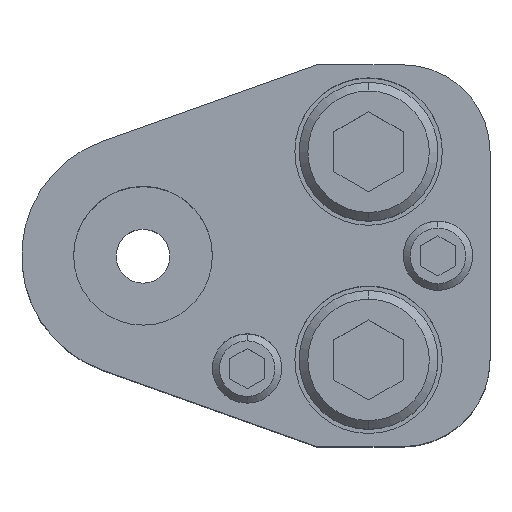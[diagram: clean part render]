
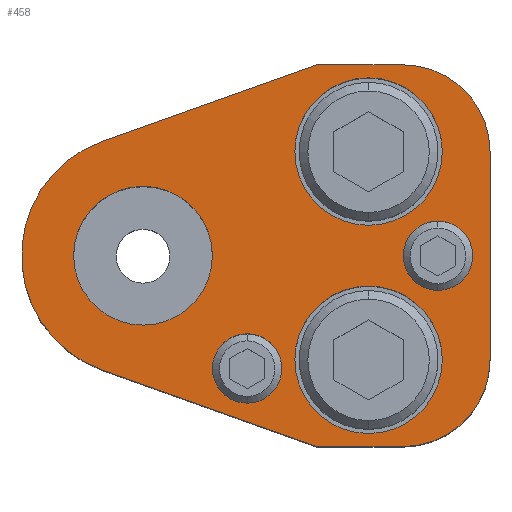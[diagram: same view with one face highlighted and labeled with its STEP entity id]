
A CAD part, top view. The second image highlights one B-rep face of the part: STEP entity #458.
In plain terms, the highlighted planar face has unit normal (0, 0, 1).
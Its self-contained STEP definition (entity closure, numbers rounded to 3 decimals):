
#217=FACE_BOUND('',#825,.T.);
#218=FACE_BOUND('',#826,.T.);
#219=FACE_BOUND('',#827,.T.);
#220=FACE_BOUND('',#828,.T.);
#221=FACE_BOUND('',#829,.T.);
#222=FACE_BOUND('',#830,.T.);
#273=CIRCLE('',#2646,14.);
#275=CIRCLE('',#2651,10.);
#277=CIRCLE('',#2655,10.);
#295=CIRCLE('',#2683,8.5);
#297=CIRCLE('',#2686,8.5);
#299=CIRCLE('',#2690,8.5);
#301=CIRCLE('',#2693,8.5);
#303=CIRCLE('',#2697,4.);
#304=CIRCLE('',#2698,4.);
#305=CIRCLE('',#2699,4.);
#306=CIRCLE('',#2700,4.);
#307=CIRCLE('',#2701,8.);
#308=CIRCLE('',#2702,8.);
#458=ADVANCED_FACE('',(#217,#218,#219,#220,#221,#222),#588,.T.);
#588=PLANE('',#2703);
#825=EDGE_LOOP('',(#1181,#1182,#1183,#1184,#1185,#1186,#1187,#1188));
#826=EDGE_LOOP('',(#1189,#1190));
#827=EDGE_LOOP('',(#1191,#1192));
#828=EDGE_LOOP('',(#1193,#1194));
#829=EDGE_LOOP('',(#1195,#1196));
#830=EDGE_LOOP('',(#1197,#1198));
#1181=ORIENTED_EDGE('',*,*,#1934,.T.);
#1182=ORIENTED_EDGE('',*,*,#1938,.T.);
#1183=ORIENTED_EDGE('',*,*,#1941,.T.);
#1184=ORIENTED_EDGE('',*,*,#1944,.T.);
#1185=ORIENTED_EDGE('',*,*,#1947,.T.);
#1186=ORIENTED_EDGE('',*,*,#1950,.T.);
#1187=ORIENTED_EDGE('',*,*,#1953,.T.);
#1188=ORIENTED_EDGE('',*,*,#1956,.T.);
#1189=ORIENTED_EDGE('',*,*,#1991,.F.);
#1190=ORIENTED_EDGE('',*,*,#1992,.F.);
#1191=ORIENTED_EDGE('',*,*,#1993,.F.);
#1192=ORIENTED_EDGE('',*,*,#1994,.F.);
#1193=ORIENTED_EDGE('',*,*,#1989,.F.);
#1194=ORIENTED_EDGE('',*,*,#1985,.F.);
#1195=ORIENTED_EDGE('',*,*,#1983,.F.);
#1196=ORIENTED_EDGE('',*,*,#1979,.F.);
#1197=ORIENTED_EDGE('',*,*,#1995,.T.);
#1198=ORIENTED_EDGE('',*,*,#1996,.T.);
#1688=VERTEX_POINT('',#3846);
#1689=VERTEX_POINT('',#3848);
#1692=VERTEX_POINT('',#3855);
#1694=VERTEX_POINT('',#3861);
#1696=VERTEX_POINT('',#3867);
#1698=VERTEX_POINT('',#3873);
#1700=VERTEX_POINT('',#3879);
#1702=VERTEX_POINT('',#3885);
#1719=VERTEX_POINT('',#3938);
#1720=VERTEX_POINT('',#3939);
#1723=VERTEX_POINT('',#3951);
#1724=VERTEX_POINT('',#3952);
#1727=VERTEX_POINT('',#3964);
#1728=VERTEX_POINT('',#3965);
#1729=VERTEX_POINT('',#3968);
#1730=VERTEX_POINT('',#3969);
#1731=VERTEX_POINT('',#3972);
#1732=VERTEX_POINT('',#3973);
#1934=EDGE_CURVE('',#1689,#1688,#273,.T.);
#1938=EDGE_CURVE('',#1688,#1692,#2266,.T.);
#1941=EDGE_CURVE('',#1692,#1694,#2269,.T.);
#1944=EDGE_CURVE('',#1694,#1696,#275,.T.);
#1947=EDGE_CURVE('',#1696,#1698,#2273,.T.);
#1950=EDGE_CURVE('',#1698,#1700,#277,.T.);
#1953=EDGE_CURVE('',#1700,#1702,#2277,.T.);
#1956=EDGE_CURVE('',#1702,#1689,#2280,.T.);
#1979=EDGE_CURVE('',#1719,#1720,#295,.T.);
#1983=EDGE_CURVE('',#1720,#1719,#297,.T.);
#1985=EDGE_CURVE('',#1723,#1724,#299,.T.);
#1989=EDGE_CURVE('',#1724,#1723,#301,.T.);
#1991=EDGE_CURVE('',#1727,#1728,#303,.T.);
#1992=EDGE_CURVE('',#1728,#1727,#304,.T.);
#1993=EDGE_CURVE('',#1729,#1730,#305,.T.);
#1994=EDGE_CURVE('',#1730,#1729,#306,.T.);
#1995=EDGE_CURVE('',#1731,#1732,#307,.T.);
#1996=EDGE_CURVE('',#1732,#1731,#308,.T.);
#2266=LINE('',#3856,#2458);
#2269=LINE('',#3862,#2461);
#2273=LINE('',#3874,#2465);
#2277=LINE('',#3886,#2469);
#2280=LINE('',#3890,#2472);
#2458=VECTOR('',#3056,1.);
#2461=VECTOR('',#3061,1.);
#2465=VECTOR('',#3073,1.);
#2469=VECTOR('',#3085,1.);
#2472=VECTOR('',#3090,1.);
#2646=AXIS2_PLACEMENT_3D('',#3847,#3048,#3049);
#2651=AXIS2_PLACEMENT_3D('',#3868,#3066,#3067);
#2655=AXIS2_PLACEMENT_3D('',#3880,#3078,#3079);
#2683=AXIS2_PLACEMENT_3D('',#3937,#3145,#3146);
#2686=AXIS2_PLACEMENT_3D('',#3946,#3153,#3154);
#2690=AXIS2_PLACEMENT_3D('',#3950,#3161,#3162);
#2693=AXIS2_PLACEMENT_3D('',#3959,#3169,#3170);
#2697=AXIS2_PLACEMENT_3D('',#3963,#3177,#3178);
#2698=AXIS2_PLACEMENT_3D('',#3966,#3179,#3180);
#2699=AXIS2_PLACEMENT_3D('',#3967,#3181,#3182);
#2700=AXIS2_PLACEMENT_3D('',#3970,#3183,#3184);
#2701=AXIS2_PLACEMENT_3D('',#3971,#3185,#3186);
#2702=AXIS2_PLACEMENT_3D('',#3974,#3187,#3188);
#2703=AXIS2_PLACEMENT_3D('',#3975,#3189,#3190);
#3048=DIRECTION('',(0.,0.,1.));
#3049=DIRECTION('',(0.,1.,0.));
#3056=DIRECTION('',(0.942,-0.336,0.));
#3061=DIRECTION('',(1.,0.,0.));
#3066=DIRECTION('',(0.,0.,1.));
#3067=DIRECTION('',(-0.707,0.707,0.));
#3073=DIRECTION('',(0.,1.,0.));
#3078=DIRECTION('',(0.,0.,1.));
#3079=DIRECTION('',(-0.707,-0.707,0.));
#3085=DIRECTION('',(-1.,0.,0.));
#3090=DIRECTION('',(-0.942,-0.336,0.));
#3145=DIRECTION('',(0.,0.,1.));
#3146=DIRECTION('',(-1.,0.,0.));
#3153=DIRECTION('',(0.,0.,1.));
#3154=DIRECTION('',(1.,0.,0.));
#3161=DIRECTION('',(0.,0.,1.));
#3162=DIRECTION('',(-1.,0.,0.));
#3169=DIRECTION('',(0.,0.,1.));
#3170=DIRECTION('',(1.,0.,0.));
#3177=DIRECTION('',(0.,0.,1.));
#3178=DIRECTION('',(1.,0.,0.));
#3179=DIRECTION('',(0.,0.,1.));
#3180=DIRECTION('',(-1.,0.,0.));
#3181=DIRECTION('',(0.,0.,1.));
#3182=DIRECTION('',(1.,0.,0.));
#3183=DIRECTION('',(0.,0.,1.));
#3184=DIRECTION('',(-1.,0.,0.));
#3185=DIRECTION('',(0.,0.,-1.));
#3186=DIRECTION('',(-1.,0.,0.));
#3187=DIRECTION('',(0.,0.,-1.));
#3188=DIRECTION('',(1.,0.,0.));
#3189=DIRECTION('',(0.,0.,1.));
#3190=DIRECTION('',(0.942,0.336,0.));
#3846=CARTESIAN_POINT('',(-4.704,-13.186,40.));
#3847=CARTESIAN_POINT('',(0.,0.,40.));
#3848=CARTESIAN_POINT('',(-4.704,13.186,40.));
#3855=CARTESIAN_POINT('',(20.,-22.,40.));
#3856=CARTESIAN_POINT('',(20.,-22.,40.));
#3861=CARTESIAN_POINT('',(30.,-22.,40.));
#3862=CARTESIAN_POINT('',(20.,-22.,40.));
#3867=CARTESIAN_POINT('',(40.,-12.,40.));
#3868=CARTESIAN_POINT('',(30.,-12.,40.));
#3873=CARTESIAN_POINT('',(40.,12.,40.));
#3874=CARTESIAN_POINT('',(40.,-12.,40.));
#3879=CARTESIAN_POINT('',(30.,22.,40.));
#3880=CARTESIAN_POINT('',(30.,12.,40.));
#3885=CARTESIAN_POINT('',(20.,22.,40.));
#3886=CARTESIAN_POINT('',(20.,22.,40.));
#3890=CARTESIAN_POINT('',(20.,22.,40.));
#3937=CARTESIAN_POINT('',(26.,12.,40.));
#3938=CARTESIAN_POINT('',(26.,3.5,40.));
#3939=CARTESIAN_POINT('',(26.,20.5,40.));
#3946=CARTESIAN_POINT('',(26.,12.,40.));
#3950=CARTESIAN_POINT('',(26.,-12.,40.));
#3951=CARTESIAN_POINT('',(26.,-20.5,40.));
#3952=CARTESIAN_POINT('',(26.,-3.5,40.));
#3959=CARTESIAN_POINT('',(26.,-12.,40.));
#3963=CARTESIAN_POINT('',(12.,-13.,40.));
#3964=CARTESIAN_POINT('',(12.,-9.,40.));
#3965=CARTESIAN_POINT('',(12.,-17.,40.));
#3966=CARTESIAN_POINT('',(12.,-13.,40.));
#3967=CARTESIAN_POINT('',(34.,0.,40.));
#3968=CARTESIAN_POINT('',(34.,4.,40.));
#3969=CARTESIAN_POINT('',(34.,-4.,40.));
#3970=CARTESIAN_POINT('',(34.,0.,40.));
#3971=CARTESIAN_POINT('',(0.,0.,40.));
#3972=CARTESIAN_POINT('',(0.,8.,40.));
#3973=CARTESIAN_POINT('',(0.,-8.,40.));
#3974=CARTESIAN_POINT('',(0.,0.,40.));
#3975=CARTESIAN_POINT('',(-4.704,13.186,40.));
